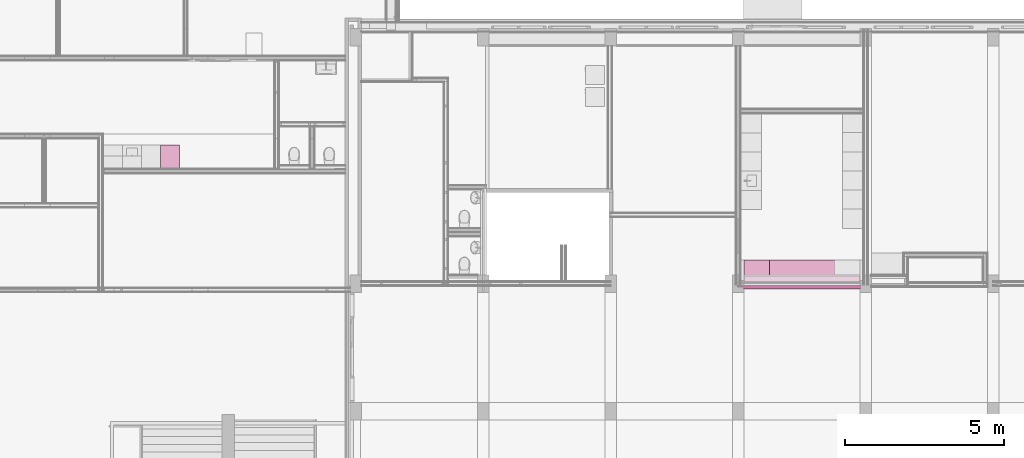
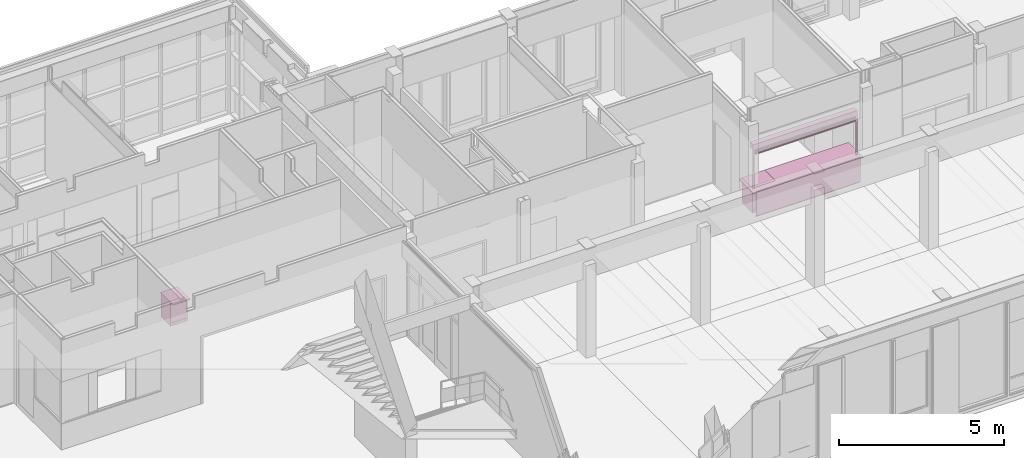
# One storey, part 99 of 109: 6 furnishings.
"""IFC2X3 building model written with IfcOpenShell, lengths in millimetres."""

from ifc_helpers import new_model, entity, si_unit, converted_unit, derived_unit, money_unit, direction, frame, origin_with_axes, place, context, subcontext, project, spatial, open_shell, faceted_brep, surface_model, type_object, element, save


model = new_model("IFC2X3")

# Units and contexts
model_context = context("Model", 3, precision=0.01, world=origin_with_axes(), true_north=direction((0.0, 1.0)))
body_context = subcontext(model_context, "Body", "Model", "MODEL_VIEW")
ifc_project = project(units=[si_unit("LENGTHUNIT", "METRE", prefix="MILLI"), si_unit("AREAUNIT", "SQUARE_METRE"), si_unit("VOLUMEUNIT", "CUBIC_METRE"), converted_unit("PLANEANGLEUNIT", "DEGREE", entity("IfcPlaneAngleMeasure", 0.0174532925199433), si_unit("PLANEANGLEUNIT", "RADIAN"), dimensions=[0, 0, 0, 0, 0, 0, 0]), money_unit("EUR"), converted_unit("TIMEUNIT", "Year", entity("IfcTimeMeasure", 31557600.0), si_unit("TIMEUNIT", "SECOND"), dimensions=[0, 0, 1, 0, 0, 0, 0]), si_unit("MASSUNIT", "GRAM", prefix="KILO"), si_unit("THERMODYNAMICTEMPERATUREUNIT", "DEGREE_CELSIUS"), si_unit("LUMINOUSINTENSITYUNIT", "LUMEN"), si_unit("ENERGYUNIT", "JOULE", prefix="MEGA"), derived_unit("THERMALCONDUCTANCEUNIT", [(si_unit("POWERUNIT", "WATT"), 1), (si_unit("LENGTHUNIT", "METRE"), -1), (si_unit("THERMODYNAMICTEMPERATUREUNIT", "KELVIN"), -1)]), derived_unit("SPECIFICHEATCAPACITYUNIT", [(si_unit("ENERGYUNIT", "JOULE"), 1), (si_unit("MASSUNIT", "GRAM", prefix="KILO"), -1), (si_unit("THERMODYNAMICTEMPERATUREUNIT", "KELVIN"), -1)]), derived_unit("MASSDENSITYUNIT", [(si_unit("MASSUNIT", "GRAM", prefix="KILO"), 1), (si_unit("VOLUMEUNIT", "CUBIC_METRE"), -1)])], contexts=[model_context])

# Site, building, storey
site_placement = place(None, origin_with_axes())
site = spatial("IfcSite", under=ifc_project, at=site_placement, Name="<site naam>", CompositionType="ELEMENT")
building_placement = place(site_placement, origin_with_axes())
building = spatial("IfcBuilding", under=site, at=building_placement, Name="<Naam gebouw>", CompositionType="ELEMENT")
storey_placement = place(building_placement, origin_with_axes())
storey = spatial("IfcBuildingStorey", under=building, at=storey_placement, Name="00 Begane grond", CompositionType="ELEMENT", Elevation=0.0)

# Furnishings
furnishing_element_type_1 = type_object("IfcFurnishingElementType", Name="Kubus 27")
furnishing_1_placement = place(storey_placement, frame((24175.00000000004, 11889.67036517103, 2.999999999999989), z_axis=(0.0, 0.0, 1.0), x_axis=(-1.0, 0.0, 0.0)))
element("IfcFurnishingElement", 1, at=furnishing_1_placement, inside=storey, type_object=furnishing_element_type_1, Name="73_Wasmachine_Lege", context=body_context, shape_type="Brep", body=[
    faceted_brep([(-3649.999999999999, 0.0, 0.0), (-3649.999999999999, 18.38515739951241, 0.0), (0.0, 18.38515739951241, 0.0), (0.0, 0.0, 0.0), (-3649.999999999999, 0.0, 47.00000000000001), (-3649.999999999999, 18.38515739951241, 47.00000000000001), (0.0, 18.38515739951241, 47.00000000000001), (0.0, 0.0, 47.00000000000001)], [[[0, 1, 2, 3]], [[0, 4, 5, 1]], [[1, 5, 6, 2]], [[2, 6, 7, 3]], [[3, 7, 4, 0]], [[7, 6, 5, 4]]]),
])
furnishing_2_placement = place(storey_placement, frame((24175.00000000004, 11889.67036517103, 50.0), z_axis=(0.0, 0.0, 1.0), x_axis=(-1.0, 0.0, 0.0)))
element("IfcFurnishingElement", 2, at=furnishing_2_placement, inside=storey, type_object=furnishing_element_type_1, Name="73_Wasmachine_Lege", context=body_context, shape_type="Brep", body=[
    faceted_brep([(-3650.000000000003, 0.0, 0.0), (-3650.000000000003, 44.99999999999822, 0.0), (0.0, 44.99999999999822, 0.0), (0.0, 0.0, 0.0), (-3650.000000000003, 0.0, 880.0000000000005), (-3650.000000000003, 44.99999999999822, 880.0000000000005), (0.0, 44.99999999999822, 880.0000000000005), (0.0, 0.0, 880.0000000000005)], [[[0, 1, 2, 3]], [[0, 4, 5, 1]], [[1, 5, 6, 2]], [[2, 6, 7, 3]], [[3, 7, 4, 0]], [[7, 6, 5, 4]]]),
])
furnishing_3_placement = place(storey_placement, frame((24075.00000000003, 12744.67036517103, 894.0), z_axis=(0.0, 0.0, 1.0), x_axis=(-1.0, 0.0, 0.0)))
element("IfcFurnishingElement", 3, at=furnishing_3_placement, inside=storey, type_object=furnishing_element_type_1, Name="73_Wasmachine_Lege", context=body_context, shape_type="Brep", body=[
    faceted_brep([(-3850.000000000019, 0.0, 0.0), (-3850.000000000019, 900.0, 0.0), (0.0, 900.0, 0.0), (0.0, 0.0, 0.0), (-3850.000000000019, 0.0, 36.00000000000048), (-3850.000000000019, 900.0, 36.00000000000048), (0.0, 900.0, 36.00000000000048), (0.0, 0.0, 36.00000000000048)], [[[0, 1, 2, 3]], [[0, 4, 5, 1]], [[1, 5, 6, 2]], [[2, 6, 7, 3]], [[3, 7, 4, 0]], [[7, 6, 5, 4]]]),
])
furnishing_element_type_2 = type_object("IfcFurnishingElementType", Name="Onderkast recht 27")
furnishing_4_placement = place(storey_placement, frame((5875.000000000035, 15599.99999999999, 0.0), z_axis=(0.0, 0.0, 1.0), x_axis=(-1.0, 0.0, 0.0)))
element("IfcFurnishingElement", 4, at=furnishing_4_placement, inside=storey, type_object=furnishing_element_type_2, Name="73_heg_Lege", context=body_context, shape_type="Brep", body=[
    faceted_brep([(0.0, -750.0, 870.0), (0.0, -750.0, 900.0), (-600.0, -750.0, 900.0), (-600.0, -750.0, 870.0), (0.0, 0.0, 870.0), (0.0, 0.0, 900.0), (-600.0, 0.0, 900.0), (-600.0, 0.0, 870.0)], [[[0, 1, 2, 3]], [[4, 5, 1, 0]], [[1, 5, 6, 2]], [[3, 2, 6, 7]], [[0, 3, 7, 4]], [[7, 6, 5, 4]]]),
    faceted_brep([(-18.0, -712.0, 460.9999999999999), (-18.0, -712.0, 479.0), (-582.0, -712.0, 479.0), (-582.0, -712.0, 460.9999999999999), (-18.0, -168.0, 460.9999999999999), (-18.0, -168.0, 479.0), (-582.0, -168.0, 479.0), (-582.0, -168.0, 460.9999999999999)], [[[0, 1, 2, 3]], [[4, 5, 1, 0]], [[1, 5, 6, 2]], [[3, 2, 6, 7]], [[0, 3, 7, 4]], [[7, 6, 5, 4]]]),
    faceted_brep([(-1.0, -712.0, 91.0), (-1.0, -730.0, 91.0), (-599.0, -730.0, 91.0), (-599.0, -712.0, 91.0), (-1.0, -712.0, 469.0), (-1.0, -730.0, 469.0), (-599.0, -730.0, 469.0), (-599.0, -712.0, 469.0)], [[[0, 1, 2, 3]], [[4, 5, 1, 0]], [[1, 5, 6, 2]], [[3, 2, 6, 7]], [[0, 3, 7, 4]], [[7, 6, 5, 4]]]),
    faceted_brep([(-1.0, -712.0, 471.0), (-1.0, -730.0, 471.0), (-599.0, -730.0, 471.0), (-599.0, -712.0, 471.0), (-1.0, -712.0, 869.0), (-1.0, -730.0, 869.0), (-599.0, -730.0, 869.0), (-599.0, -712.0, 869.0)], [[[0, 1, 2, 3]], [[4, 5, 1, 0]], [[1, 5, 6, 2]], [[3, 2, 6, 7]], [[0, 3, 7, 4]], [[7, 6, 5, 4]]]),
    faceted_brep([(-18.0, -712.0, 90.0), (-18.0, -712.0, 108.0), (-582.0, -712.0, 108.0), (-582.0, -712.0, 90.0), (-18.0, -150.0, 90.0), (-18.0, -150.0, 108.0), (-582.0, -150.0, 108.0), (-582.0, -150.0, 90.0)], [[[0, 1, 2, 3]], [[4, 5, 1, 0]], [[1, 5, 6, 2]], [[3, 2, 6, 7]], [[0, 3, 7, 4]], [[7, 6, 5, 4]]]),
    faceted_brep([(-18.0, -712.0, 852.0), (-582.0, -712.0, 852.0), (-582.0, -652.0, 852.0), (-18.0, -652.0, 852.0), (-18.0, -712.0, 870.0), (-582.0, -712.0, 870.0), (-582.0, -652.0, 870.0), (-18.0, -652.0, 870.0)], [[[0, 1, 2, 3]], [[4, 5, 1, 0]], [[1, 5, 6, 2]], [[3, 2, 6, 7]], [[0, 3, 7, 4]], [[7, 6, 5, 4]]]),
    faceted_brep([(-582.0, -150.0, 852.0), (-18.0, -150.0, 852.0), (-18.0, -210.0, 852.0), (-582.0, -210.0, 852.0), (-582.0, -150.0, 870.0), (-18.0, -150.0, 870.0), (-18.0, -210.0, 870.0), (-582.0, -210.0, 870.0)], [[[0, 1, 2, 3]], [[4, 5, 1, 0]], [[1, 5, 6, 2]], [[3, 2, 6, 7]], [[0, 3, 7, 4]], [[7, 6, 5, 4]]]),
    faceted_brep([(0.0, -150.0, 90.0), (0.0, -150.0, 870.0), (0.0, -712.0, 870.0), (0.0, -712.0, 90.0), (-18.0, -150.0, 90.0), (-18.0, -150.0, 870.0), (-18.0, -712.0, 870.0), (-18.0, -712.0, 90.0)], [[[0, 1, 2, 3]], [[4, 5, 1, 0]], [[1, 5, 6, 2]], [[3, 2, 6, 7]], [[0, 3, 7, 4]], [[7, 6, 5, 4]]]),
    faceted_brep([(-600.0, -712.0, 90.0), (-600.0, -712.0, 870.0), (-600.0, -150.0, 870.0), (-600.0, -150.0, 90.0), (-582.0, -712.0, 90.0), (-582.0, -712.0, 870.0), (-582.0, -150.0, 870.0), (-582.0, -150.0, 90.0)], [[[0, 1, 2, 3]], [[4, 5, 1, 0]], [[1, 5, 6, 2]], [[3, 2, 6, 7]], [[0, 3, 7, 4]], [[7, 6, 5, 4]]]),
    faceted_brep([(-582.0, -159.0, 108.0), (-582.0, -159.0, 852.0), (-18.00000000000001, -159.0, 852.0), (-18.00000000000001, -159.0, 108.0), (-582.0, -168.0, 108.0), (-582.0, -168.0, 852.0), (-18.00000000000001, -168.0, 852.0), (-18.00000000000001, -168.0, 108.0)], [[[0, 1, 2, 3]], [[4, 5, 1, 0]], [[1, 5, 6, 2]], [[3, 2, 6, 7]], [[0, 3, 7, 4]], [[7, 6, 5, 4]]]),
    faceted_brep([(0.0, -712.0, 0.0), (0.0, -712.0, 90.0), (-600.0, -712.0, 90.0), (-600.0, -712.0, 0.0), (0.0, -150.0, 0.0), (0.0, -150.0, 90.0), (-600.0, -150.0, 90.0), (-600.0, -150.0, 0.0)], [[[0, 1, 2, 3]], [[4, 5, 1, 0]], [[1, 5, 6, 2]], [[3, 2, 6, 7]], [[0, 3, 7, 4]], [[7, 6, 5, 4]]]),
])
furnishing_5_placement = place(storey_placement, frame((24180.00000000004, 12094.67036517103, 0.0), z_axis=(0.0, 0.0, 1.0), x_axis=(-1.0, 0.0, 0.0)))
element("IfcFurnishingElement", 5, at=furnishing_5_placement, inside=storey, type_object=furnishing_element_type_2, Name="73_heg_Lege", context=body_context, shape_type="Brep", body=[
    faceted_brep([(0.0, -650.0, 894.0), (0.0, -650.0, 930.0), (-800.0, -650.0, 930.0), (-800.0, -650.0, 894.0), (0.0, 0.0, 894.0), (0.0, 0.0, 930.0), (-800.0, 0.0, 930.0), (-800.0, 0.0, 894.0)], [[[0, 1, 2, 3]], [[4, 5, 1, 0]], [[1, 5, 6, 2]], [[3, 2, 6, 7]], [[0, 3, 7, 4]], [[7, 6, 5, 4]]]),
    faceted_brep([(-18.0, -612.0, 357.6666666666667), (-18.0, -612.0, 375.6666666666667), (-782.0, -612.0, 375.6666666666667), (-782.0, -612.0, 357.6666666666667), (-18.0, -18.0, 357.6666666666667), (-18.0, -18.0, 375.6666666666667), (-782.0, -18.0, 375.6666666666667), (-782.0, -18.0, 357.6666666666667)], [[[0, 1, 2, 3]], [[4, 5, 1, 0]], [[1, 5, 6, 2]], [[3, 2, 6, 7]], [[0, 3, 7, 4]], [[7, 6, 5, 4]]]),
    faceted_brep([(-18.0, -612.0, 624.3333333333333), (-18.0, -612.0, 642.3333333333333), (-782.0, -612.0, 642.3333333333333), (-782.0, -612.0, 624.3333333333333), (-18.0, -18.0, 624.3333333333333), (-18.0, -18.0, 642.3333333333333), (-782.0, -18.0, 642.3333333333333), (-782.0, -18.0, 624.3333333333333)], [[[0, 1, 2, 3]], [[4, 5, 1, 0]], [[1, 5, 6, 2]], [[3, 2, 6, 7]], [[0, 3, 7, 4]], [[7, 6, 5, 4]]]),
    faceted_brep([(-1.0, -612.0, 101.0), (-1.0, -630.0, 101.0), (-799.0, -630.0, 101.0), (-799.0, -612.0, 101.0), (-1.0, -612.0, 365.6666666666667), (-1.0, -630.0, 365.6666666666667), (-799.0, -630.0, 365.6666666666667), (-799.0, -612.0, 365.6666666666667)], [[[0, 1, 2, 3]], [[4, 5, 1, 0]], [[1, 5, 6, 2]], [[3, 2, 6, 7]], [[0, 3, 7, 4]], [[7, 6, 5, 4]]]),
    faceted_brep([(-1.0, -612.0, 367.6666666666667), (-1.0, -630.0, 367.6666666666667), (-799.0, -630.0, 367.6666666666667), (-799.0, -612.0, 367.6666666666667), (-1.0, -612.0, 632.3333333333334), (-1.0, -630.0, 632.3333333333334), (-799.0, -630.0, 632.3333333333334), (-799.0, -612.0, 632.3333333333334)], [[[0, 1, 2, 3]], [[4, 5, 1, 0]], [[1, 5, 6, 2]], [[3, 2, 6, 7]], [[0, 3, 7, 4]], [[7, 6, 5, 4]]]),
    faceted_brep([(-1.0, -612.0, 634.3333333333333), (-1.0, -630.0, 634.3333333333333), (-799.0, -630.0, 634.3333333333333), (-799.0, -612.0, 634.3333333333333), (-1.0, -612.0, 893.0), (-1.0, -630.0, 893.0), (-799.0, -630.0, 893.0), (-799.0, -612.0, 893.0)], [[[0, 1, 2, 3]], [[4, 5, 1, 0]], [[1, 5, 6, 2]], [[3, 2, 6, 7]], [[0, 3, 7, 4]], [[7, 6, 5, 4]]]),
    faceted_brep([(-18.0, -612.0, 100.0), (-18.0, -612.0, 118.0), (-782.0, -612.0, 118.0), (-782.0, -612.0, 100.0), (-18.0, 0.0, 100.0), (-18.0, 0.0, 118.0), (-782.0, 0.0, 118.0), (-782.0, 0.0, 100.0)], [[[0, 1, 2, 3]], [[4, 5, 1, 0]], [[1, 5, 6, 2]], [[3, 2, 6, 7]], [[0, 3, 7, 4]], [[7, 6, 5, 4]]]),
    faceted_brep([(-18.0, -612.0, 876.0), (-782.0, -612.0, 876.0), (-782.0, -552.0, 876.0), (-18.0, -552.0, 876.0), (-18.0, -612.0, 894.0), (-782.0, -612.0, 894.0), (-782.0, -552.0, 894.0), (-18.0, -552.0, 894.0)], [[[0, 1, 2, 3]], [[4, 5, 1, 0]], [[1, 5, 6, 2]], [[3, 2, 6, 7]], [[0, 3, 7, 4]], [[7, 6, 5, 4]]]),
    faceted_brep([(-782.0, 0.0, 876.0), (-18.0, 0.0, 876.0), (-18.0, -60.0, 876.0), (-782.0, -60.0, 876.0), (-782.0, 0.0, 894.0), (-18.0, 0.0, 894.0), (-18.0, -60.0, 894.0), (-782.0, -60.0, 894.0)], [[[0, 1, 2, 3]], [[4, 5, 1, 0]], [[1, 5, 6, 2]], [[3, 2, 6, 7]], [[0, 3, 7, 4]], [[7, 6, 5, 4]]]),
    faceted_brep([(0.0, 0.0, 100.0), (0.0, 0.0, 894.0), (0.0, -612.0, 894.0), (0.0, -612.0, 100.0), (-18.0, 0.0, 100.0), (-18.0, 0.0, 894.0), (-18.0, -612.0, 894.0), (-18.0, -612.0, 100.0)], [[[0, 1, 2, 3]], [[4, 5, 1, 0]], [[1, 5, 6, 2]], [[3, 2, 6, 7]], [[0, 3, 7, 4]], [[7, 6, 5, 4]]]),
    faceted_brep([(-800.0, -612.0, 100.0), (-800.0, -612.0, 894.0), (-800.0, 0.0, 894.0), (-800.0, 0.0, 100.0), (-782.0, -612.0, 100.0), (-782.0, -612.0, 894.0), (-782.0, 0.0, 894.0), (-782.0, 0.0, 100.0)], [[[0, 1, 2, 3]], [[4, 5, 1, 0]], [[1, 5, 6, 2]], [[3, 2, 6, 7]], [[0, 3, 7, 4]], [[7, 6, 5, 4]]]),
    faceted_brep([(-782.0, -9.0, 118.0), (-782.0, -9.0, 876.0), (-18.00000000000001, -9.0, 876.0), (-18.00000000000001, -9.0, 118.0), (-782.0, -18.0, 118.0), (-782.0, -18.0, 876.0), (-18.00000000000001, -18.0, 876.0), (-18.00000000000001, -18.0, 118.0)], [[[0, 1, 2, 3]], [[4, 5, 1, 0]], [[1, 5, 6, 2]], [[3, 2, 6, 7]], [[0, 3, 7, 4]], [[7, 6, 5, 4]]]),
    faceted_brep([(0.0, -612.0, 0.0), (0.0, -612.0, 100.0), (-800.0, -612.0, 100.0), (-800.0, -612.0, 0.0), (0.0, 0.0, 0.0), (0.0, 0.0, 100.0), (-800.0, 0.0, 100.0), (-800.0, 0.0, 0.0)], [[[0, 1, 2, 3]], [[4, 5, 1, 0]], [[1, 5, 6, 2]], [[3, 2, 6, 7]], [[0, 3, 7, 4]], [[7, 6, 5, 4]]]),
])
furnishing_element_type_3 = type_object("IfcFurnishingElementType", Name="Rolluik 27 KM")
furnishing_6_placement = place(storey_placement, frame((27825.00000000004, 12046.61680341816, 900.0000000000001), z_axis=(0.0, 0.0, 1.0), x_axis=(-1.0, 0.0, 0.0)))
element("IfcFurnishingElement", 6, at=furnishing_6_placement, inside=storey, type_object=furnishing_element_type_3, Name="42_Object-x_Lege", context=body_context, shape_type="SurfaceModel", body=[
    faceted_brep([(0.0, 0.0, 0.0), (0.0, -30.0, 0.0), (0.0, -30.0, 1464.0), (0.0, 0.0, 1464.0), (40.0, 0.0, 0.0), (40.0, -4.999999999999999, 0.0), (37.0, -4.999999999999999, 0.0), (37.0, -3.0, 0.0), (3.0, -3.0, 0.0), (3.0, -27.0, 0.0), (37.0, -27.0, 0.0), (37.0, -25.0, 0.0), (40.0, -25.0, 0.0), (40.0, -30.0, 0.0), (40.0, -30.0, 1464.0), (40.0, -25.0, 1464.0), (37.0, -25.0, 1464.0), (37.0, -27.0, 1464.0), (3.0, -27.0, 1464.0), (3.0, -3.0, 1464.0), (37.0, -3.0, 1464.0), (37.0, -4.999999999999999, 1464.0), (40.0, -4.999999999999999, 1464.0), (40.0, 0.0, 1464.0)], [[[0, 1, 2, 3]], [[0, 4, 5, 6, 7, 8, 9, 10, 11, 12, 13, 1]], [[1, 13, 14, 2]], [[3, 2, 14, 15, 16, 17, 18, 19, 20, 21, 22, 23]], [[4, 0, 3, 23]], [[5, 4, 23, 22]], [[6, 5, 22, 21]], [[7, 6, 21, 20]], [[8, 7, 20, 19]], [[9, 8, 19, 18]], [[10, 9, 18, 17]], [[11, 10, 17, 16]], [[12, 11, 16, 15]], [[13, 12, 15, 14]]]),
    faceted_brep([(3650.515255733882, 0.0, 0.0), (3650.515255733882, 0.0, 1464.0), (3650.515255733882, -30.0, 1464.0), (3650.515255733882, -30.0, 0.0), (3610.515255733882, 0.0, 0.0), (3610.515255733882, 0.0, 1464.0), (3610.515255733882, -4.999999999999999, 1464.0), (3613.515255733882, -4.999999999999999, 1464.0), (3613.515255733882, -3.0, 1464.0), (3647.515255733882, -3.0, 1464.0), (3647.515255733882, -27.0, 1464.0), (3613.515255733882, -27.0, 1464.0), (3613.515255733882, -25.0, 1464.0), (3610.515255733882, -25.0, 1464.0), (3610.515255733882, -30.0, 1464.0), (3610.515255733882, -30.0, 0.0), (3610.515255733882, -25.0, 0.0), (3613.515255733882, -25.0, 0.0), (3613.515255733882, -27.0, 0.0), (3647.515255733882, -27.0, 0.0), (3647.515255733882, -3.0, 0.0), (3613.515255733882, -3.0, 0.0), (3613.515255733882, -4.999999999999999, 0.0), (3610.515255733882, -4.999999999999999, 0.0)], [[[0, 1, 2, 3]], [[4, 5, 1, 0]], [[1, 5, 6, 7, 8, 9, 10, 11, 12, 13, 14, 2]], [[3, 2, 14, 15]], [[0, 3, 15, 16, 17, 18, 19, 20, 21, 22, 23, 4]], [[23, 6, 5, 4]], [[22, 7, 6, 23]], [[21, 8, 7, 22]], [[20, 9, 8, 21]], [[19, 10, 9, 20]], [[18, 11, 10, 19]], [[17, 12, 11, 18]], [[16, 13, 12, 17]], [[15, 14, 13, 16]]]),
    surface_model("IfcShellBasedSurfaceModel", [(0.0, 0.0, 1664.0), (0.0, 0.0, 1464.0), (0.0, -200.0, 1464.0), (0.0, -200.0, 1664.0)], [open_shell([[[0, 1, 2, 3]]])]),
    faceted_brep([(0.01, 0.0, 1664.0), (0.009999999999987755, -200.0, 1664.0), (3650.505255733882, -200.0000000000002, 1664.0), (3650.505255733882, 0.0, 1664.0), (0.01000000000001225, 0.0, 1464.0), (0.01000000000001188, -6.0, 1464.0), (0.0100000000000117, -6.0, 1467.0), (0.01000000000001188, -3.0, 1467.0), (0.01, -3.0, 1661.0), (0.009999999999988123, -197.0, 1661.0), (0.01, -197.0, 1467.0), (0.01000000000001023, -30.0, 1467.0), (0.01000000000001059, -30.0, 1461.0), (0.01000000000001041, -33.0, 1461.0), (0.01000000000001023, -33.0, 1464.0), (0.01, -200.0, 1464.0), (3650.505255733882, -200.0000000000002, 1464.0), (3650.505255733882, -33.00000000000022, 1464.0), (3650.505255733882, -33.00000000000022, 1461.0), (3650.505255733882, -30.00000000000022, 1461.0), (3650.505255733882, -30.00000000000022, 1467.0), (3650.505255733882, -197.0000000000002, 1467.0), (3650.505255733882, -197.0000000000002, 1661.0), (3650.505255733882, -3.000000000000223, 1661.0), (3650.505255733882, -3.000000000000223, 1467.0), (3650.505255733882, -6.000000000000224, 1467.0), (3650.505255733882, -6.000000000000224, 1464.0), (3650.505255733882, 0.0, 1464.0)], [[[0, 1, 2, 3]], [[0, 4, 5, 6, 7, 8, 9, 10, 11, 12, 13, 14, 15, 1]], [[1, 15, 16, 2]], [[3, 2, 16, 17, 18, 19, 20, 21, 22, 23, 24, 25, 26, 27]], [[4, 0, 3, 27]], [[5, 4, 27, 26]], [[6, 5, 26, 25]], [[7, 6, 25, 24]], [[8, 7, 24, 23]], [[9, 8, 23, 22]], [[10, 9, 22, 21]], [[11, 10, 21, 20]], [[12, 11, 20, 19]], [[13, 12, 19, 18]], [[14, 13, 18, 17]], [[15, 14, 17, 16]]]),
    surface_model("IfcShellBasedSurfaceModel", [(3650.505255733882, 0.0, 1664.0), (3650.505255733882, 0.0, 1464.0), (3650.505255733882, -200.0000000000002, 1464.0), (3650.505255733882, -200.0000000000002, 1664.0)], [open_shell([[[0, 1, 2, 3]]])]),
    faceted_brep([(3.000000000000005, -35.4950921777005, 1552.626044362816), (3.000000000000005, -38.45013333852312, 1541.597680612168), (3.000000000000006, -43.27533605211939, 1531.25), (3.000000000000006, -49.82408897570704, 1521.897411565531), (3.000000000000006, -57.89741156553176, 1513.824088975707), (3.000000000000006, -67.25000000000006, 1507.275336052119), (3.000000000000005, -77.59768061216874, 1502.450133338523), (3.000000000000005, -88.6260443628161, 1499.4950921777), (3.000000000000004, -100.0, 1498.5), (3.000000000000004, -111.3739556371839, 1499.4950921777), (3.000000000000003, -122.4023193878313, 1502.450133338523), (3.000000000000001, -132.75, 1507.275336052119), (3.0, -142.1025884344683, 1513.824088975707), (3.0, -150.175911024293, 1521.897411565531), (2.999999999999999, -156.7246639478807, 1531.25), (2.999999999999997, -161.549866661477, 1541.597680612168), (2.999999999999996, -164.5049078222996, 1552.626044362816), (2.999999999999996, -165.4999999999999, 1564.0), (2.999999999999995, -164.5049078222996, 1575.373955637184), (2.999999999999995, -161.549866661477, 1586.402319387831), (2.999999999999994, -156.7246639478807, 1596.75), (2.999999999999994, -150.175911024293, 1606.102588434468), (2.999999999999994, -142.1025884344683, 1614.175911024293), (2.999999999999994, -132.75, 1620.724663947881), (2.999999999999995, -122.4023193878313, 1625.549866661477), (2.999999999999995, -111.3739556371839, 1628.504907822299), (2.999999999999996, -99.99999999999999, 1629.5), (2.999999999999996, -88.62604436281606, 1628.504907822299), (2.999999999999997, -77.5976806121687, 1625.549866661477), (2.999999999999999, -67.25, 1620.724663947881), (3.0, -57.89741156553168, 1614.175911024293), (3.0, -49.82408897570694, 1606.102588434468), (3.000000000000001, -43.27533605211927, 1596.75), (3.000000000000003, -38.450133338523, 1586.402319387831), (3.000000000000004, -35.49509217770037, 1575.373955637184), (3.000000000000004, -34.5, 1564.0), (3647.515255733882, -35.49509217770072, 1552.626044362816), (3647.515255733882, -38.45013333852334, 1541.597680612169), (3647.515255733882, -43.27533605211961, 1531.25), (3647.515255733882, -49.82408897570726, 1521.897411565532), (3647.515255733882, -57.89741156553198, 1513.824088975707), (3647.515255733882, -67.25000000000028, 1507.275336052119), (3647.515255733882, -77.59768061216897, 1502.450133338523), (3647.515255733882, -88.62604436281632, 1499.495092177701), (3647.515255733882, -100.0000000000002, 1498.5), (3647.515255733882, -111.3739556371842, 1499.495092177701), (3647.515255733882, -122.4023193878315, 1502.450133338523), (3647.515255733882, -132.7500000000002, 1507.275336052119), (3647.515255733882, -142.1025884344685, 1513.824088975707), (3647.515255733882, -150.1759110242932, 1521.897411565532), (3647.515255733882, -156.7246639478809, 1531.25), (3647.515255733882, -161.5498666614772, 1541.597680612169), (3647.515255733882, -164.5049078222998, 1552.626044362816), (3647.515255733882, -165.5000000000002, 1564.0), (3647.515255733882, -164.5049078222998, 1575.373955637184), (3647.515255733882, -161.5498666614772, 1586.402319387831), (3647.515255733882, -156.7246639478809, 1596.75), (3647.515255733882, -150.1759110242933, 1606.102588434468), (3647.515255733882, -142.1025884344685, 1614.175911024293), (3647.515255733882, -132.7500000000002, 1620.724663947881), (3647.515255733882, -122.4023193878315, 1625.549866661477), (3647.515255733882, -111.3739556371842, 1628.5049078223), (3647.515255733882, -100.0000000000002, 1629.5), (3647.515255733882, -88.62604436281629, 1628.5049078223), (3647.515255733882, -77.59768061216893, 1625.549866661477), (3647.515255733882, -67.25000000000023, 1620.724663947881), (3647.515255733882, -57.8974115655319, 1614.175911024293), (3647.515255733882, -49.82408897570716, 1606.102588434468), (3647.515255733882, -43.27533605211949, 1596.75), (3647.515255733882, -38.45013333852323, 1586.402319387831), (3647.515255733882, -35.4950921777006, 1575.373955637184), (3647.515255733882, -34.50000000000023, 1564.0)], [[[0, 1, 2, 3, 4, 5, 6, 7, 8, 9, 10, 11, 12, 13, 14, 15, 16, 17, 18, 19, 20, 21, 22, 23, 24, 25, 26, 27, 28, 29, 30, 31, 32, 33, 34, 35]], [[1, 0, 36, 37]], [[2, 1, 37, 38]], [[3, 2, 38, 39]], [[4, 3, 39, 40]], [[5, 4, 40, 41]], [[6, 5, 41, 42]], [[7, 6, 42, 43]], [[8, 7, 43, 44]], [[9, 8, 44, 45]], [[10, 9, 45, 46]], [[11, 10, 46, 47]], [[12, 11, 47, 48]], [[13, 12, 48, 49]], [[14, 13, 49, 50]], [[15, 14, 50, 51]], [[16, 15, 51, 52]], [[17, 16, 52, 53]], [[18, 17, 53, 54]], [[19, 18, 54, 55]], [[20, 19, 55, 56]], [[21, 20, 56, 57]], [[22, 21, 57, 58]], [[23, 22, 58, 59]], [[24, 23, 59, 60]], [[25, 24, 60, 61]], [[26, 25, 61, 62]], [[27, 26, 62, 63]], [[28, 27, 63, 64]], [[29, 28, 64, 65]], [[30, 29, 65, 66]], [[31, 30, 66, 67]], [[32, 31, 67, 68]], [[33, 32, 68, 69]], [[34, 33, 69, 70]], [[35, 34, 70, 71]], [[0, 35, 71, 36]], [[36, 71, 70, 69, 68, 67, 66, 65, 64, 63, 62, 61, 60, 59, 58, 57, 56, 55, 54, 53, 52, 51, 50, 49, 48, 47, 46, 45, 44, 43, 42, 41, 40, 39, 38, 37]]]),
    faceted_brep([(3.0, -25.0, 1270.000000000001), (3.000000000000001, -5.000000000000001, 1270.000000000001), (3647.515255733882, -5.000000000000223, 1270.000000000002), (3647.515255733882, -25.00000000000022, 1270.000000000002), (2.999999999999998, -25.0, 1300.000000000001), (3.0, -5.000000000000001, 1300.000000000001), (3.0, -22.0, 1273.000000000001), (3.000000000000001, -8.0, 1273.000000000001), (3.0, -8.0, 1297.000000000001), (2.999999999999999, -22.0, 1297.000000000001), (3647.515255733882, -5.000000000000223, 1300.000000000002), (3647.515255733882, -25.00000000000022, 1300.000000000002), (3647.515255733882, -22.00000000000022, 1273.000000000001), (3647.515255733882, -22.00000000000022, 1297.000000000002), (3647.515255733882, -8.000000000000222, 1297.000000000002), (3647.515255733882, -8.000000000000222, 1273.000000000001)], [[[0, 1, 2, 3]], [[0, 4, 5, 1], [6, 7, 8, 9]], [[1, 5, 10, 2]], [[3, 2, 10, 11], [12, 13, 14, 15]], [[4, 0, 3, 11]], [[5, 4, 11, 10]], [[7, 6, 12, 15]], [[8, 7, 15, 14]], [[9, 8, 14, 13]], [[6, 9, 13, 12]]]),
    faceted_brep([(3.0, -18.33333333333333, 1300.000000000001), (3.000000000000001, -5.000000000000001, 1300.000000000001), (3647.515255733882, -5.000000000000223, 1300.000000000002), (3647.515255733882, -18.33333333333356, 1300.000000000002), (3.0, -25.0, 1310.000000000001), (2.999999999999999, -25.0, 1320.000000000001), (2.999999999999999, -18.33333333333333, 1330.000000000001), (3.0, -5.000000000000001, 1330.000000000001), (3.0, -11.66666666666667, 1320.000000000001), (3.0, -11.66666666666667, 1310.000000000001), (3647.515255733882, -11.66666666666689, 1310.000000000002), (3647.515255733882, -11.66666666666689, 1320.000000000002), (3647.515255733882, -5.000000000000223, 1330.000000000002), (3647.515255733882, -18.33333333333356, 1330.000000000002), (3647.515255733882, -25.00000000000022, 1320.000000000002), (3647.515255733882, -25.00000000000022, 1310.000000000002)], [[[0, 1, 2, 3]], [[0, 4, 5, 6, 7, 8, 9, 1]], [[1, 9, 10, 2]], [[3, 2, 10, 11, 12, 13, 14, 15]], [[4, 0, 3, 15]], [[5, 4, 15, 14]], [[6, 5, 14, 13]], [[7, 6, 13, 12]], [[8, 7, 12, 11]], [[9, 8, 11, 10]]]),
    faceted_brep([(3.0, -18.33333333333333, 1330.000000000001), (3.000000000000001, -5.000000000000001, 1330.000000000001), (3647.515255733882, -5.000000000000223, 1330.000000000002), (3647.515255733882, -18.33333333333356, 1330.000000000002), (3.0, -25.0, 1340.000000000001), (2.999999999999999, -25.0, 1350.000000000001), (2.999999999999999, -18.33333333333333, 1360.000000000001), (3.0, -5.000000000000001, 1360.000000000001), (3.0, -11.66666666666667, 1350.000000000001), (3.0, -11.66666666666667, 1340.000000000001), (3647.515255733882, -11.66666666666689, 1340.000000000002), (3647.515255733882, -11.66666666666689, 1350.000000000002), (3647.515255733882, -5.000000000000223, 1360.000000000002), (3647.515255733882, -18.33333333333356, 1360.000000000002), (3647.515255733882, -25.00000000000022, 1350.000000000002), (3647.515255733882, -25.00000000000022, 1340.000000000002)], [[[0, 1, 2, 3]], [[0, 4, 5, 6, 7, 8, 9, 1]], [[1, 9, 10, 2]], [[3, 2, 10, 11, 12, 13, 14, 15]], [[4, 0, 3, 15]], [[5, 4, 15, 14]], [[6, 5, 14, 13]], [[7, 6, 13, 12]], [[8, 7, 12, 11]], [[9, 8, 11, 10]]]),
    faceted_brep([(3.0, -18.33333333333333, 1360.000000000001), (3.000000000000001, -5.000000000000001, 1360.000000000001), (3647.515255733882, -5.000000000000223, 1360.000000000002), (3647.515255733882, -18.33333333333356, 1360.000000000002), (3.0, -25.0, 1370.000000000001), (2.999999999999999, -25.0, 1380.000000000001), (2.999999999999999, -18.33333333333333, 1390.000000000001), (3.0, -5.000000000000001, 1390.000000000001), (3.0, -11.66666666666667, 1380.000000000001), (3.0, -11.66666666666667, 1370.000000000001), (3647.515255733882, -11.66666666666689, 1370.000000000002), (3647.515255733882, -11.66666666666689, 1380.000000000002), (3647.515255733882, -5.000000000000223, 1390.000000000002), (3647.515255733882, -18.33333333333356, 1390.000000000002), (3647.515255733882, -25.00000000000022, 1380.000000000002), (3647.515255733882, -25.00000000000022, 1370.000000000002)], [[[0, 1, 2, 3]], [[0, 4, 5, 6, 7, 8, 9, 1]], [[1, 9, 10, 2]], [[3, 2, 10, 11, 12, 13, 14, 15]], [[4, 0, 3, 15]], [[5, 4, 15, 14]], [[6, 5, 14, 13]], [[7, 6, 13, 12]], [[8, 7, 12, 11]], [[9, 8, 11, 10]]]),
    faceted_brep([(3.0, -18.33333333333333, 1390.000000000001), (3.000000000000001, -5.000000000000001, 1390.000000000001), (3647.515255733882, -5.000000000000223, 1390.000000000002), (3647.515255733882, -18.33333333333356, 1390.000000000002), (3.0, -25.0, 1400.000000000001), (2.999999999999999, -25.0, 1410.000000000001), (2.999999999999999, -18.33333333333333, 1420.000000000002), (3.0, -5.000000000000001, 1420.000000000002), (3.0, -11.66666666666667, 1410.000000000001), (3.0, -11.66666666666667, 1400.000000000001), (3647.515255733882, -11.66666666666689, 1400.000000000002), (3647.515255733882, -11.66666666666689, 1410.000000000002), (3647.515255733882, -5.000000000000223, 1420.000000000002), (3647.515255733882, -18.33333333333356, 1420.000000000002), (3647.515255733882, -25.00000000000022, 1410.000000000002), (3647.515255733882, -25.00000000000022, 1400.000000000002)], [[[0, 1, 2, 3]], [[0, 4, 5, 6, 7, 8, 9, 1]], [[1, 9, 10, 2]], [[3, 2, 10, 11, 12, 13, 14, 15]], [[4, 0, 3, 15]], [[5, 4, 15, 14]], [[6, 5, 14, 13]], [[7, 6, 13, 12]], [[8, 7, 12, 11]], [[9, 8, 11, 10]]]),
    faceted_brep([(3.0, -18.33333333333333, 1420.000000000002), (3.000000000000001, -5.000000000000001, 1420.000000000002), (3647.515255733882, -5.000000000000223, 1420.000000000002), (3647.515255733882, -18.33333333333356, 1420.000000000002), (3.0, -25.0, 1430.000000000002), (2.999999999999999, -25.0, 1440.000000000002), (2.999999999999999, -18.33333333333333, 1450.000000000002), (3.0, -5.000000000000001, 1450.000000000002), (3.0, -11.66666666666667, 1440.000000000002), (3.0, -11.66666666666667, 1430.000000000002), (3647.515255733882, -11.66666666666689, 1430.000000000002), (3647.515255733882, -11.66666666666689, 1440.000000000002), (3647.515255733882, -5.000000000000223, 1450.000000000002), (3647.515255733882, -18.33333333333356, 1450.000000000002), (3647.515255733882, -25.00000000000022, 1440.000000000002), (3647.515255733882, -25.00000000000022, 1430.000000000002)], [[[0, 1, 2, 3]], [[0, 4, 5, 6, 7, 8, 9, 1]], [[1, 9, 10, 2]], [[3, 2, 10, 11, 12, 13, 14, 15]], [[4, 0, 3, 15]], [[5, 4, 15, 14]], [[6, 5, 14, 13]], [[7, 6, 13, 12]], [[8, 7, 12, 11]], [[9, 8, 11, 10]]]),
    faceted_brep([(3.0, -18.33333333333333, 1450.000000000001), (3.000000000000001, -5.000000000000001, 1450.000000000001), (3647.515255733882, -5.000000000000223, 1450.000000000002), (3647.515255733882, -18.33333333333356, 1450.000000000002), (3.0, -25.0, 1460.000000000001), (2.999999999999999, -25.0, 1470.000000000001), (2.999999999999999, -18.33333333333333, 1480.000000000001), (3.0, -5.000000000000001, 1480.000000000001), (3.0, -11.66666666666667, 1470.000000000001), (3.0, -11.66666666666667, 1460.000000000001), (3647.515255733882, -11.66666666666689, 1460.000000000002), (3647.515255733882, -11.66666666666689, 1470.000000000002), (3647.515255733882, -5.000000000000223, 1480.000000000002), (3647.515255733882, -18.33333333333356, 1480.000000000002), (3647.515255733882, -25.00000000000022, 1470.000000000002), (3647.515255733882, -25.00000000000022, 1460.000000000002)], [[[0, 1, 2, 3]], [[0, 4, 5, 6, 7, 8, 9, 1]], [[1, 9, 10, 2]], [[3, 2, 10, 11, 12, 13, 14, 15]], [[4, 0, 3, 15]], [[5, 4, 15, 14]], [[6, 5, 14, 13]], [[7, 6, 13, 12]], [[8, 7, 12, 11]], [[9, 8, 11, 10]]]),
])

save(model, "model.ifc")
